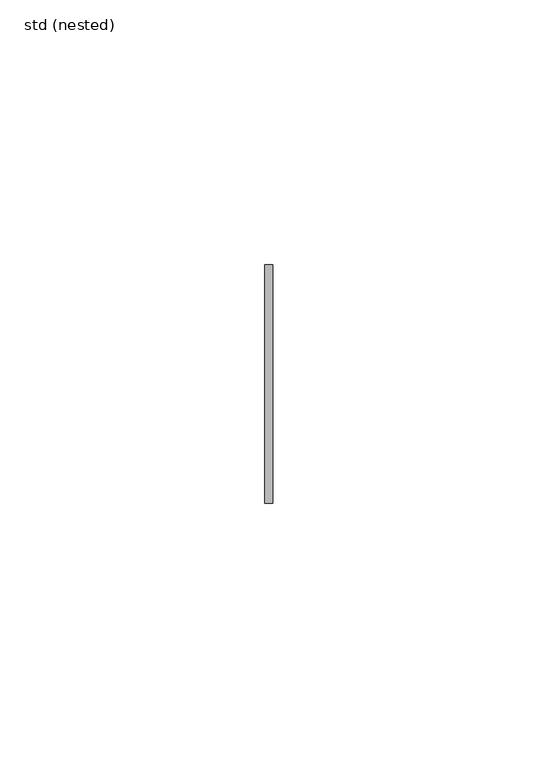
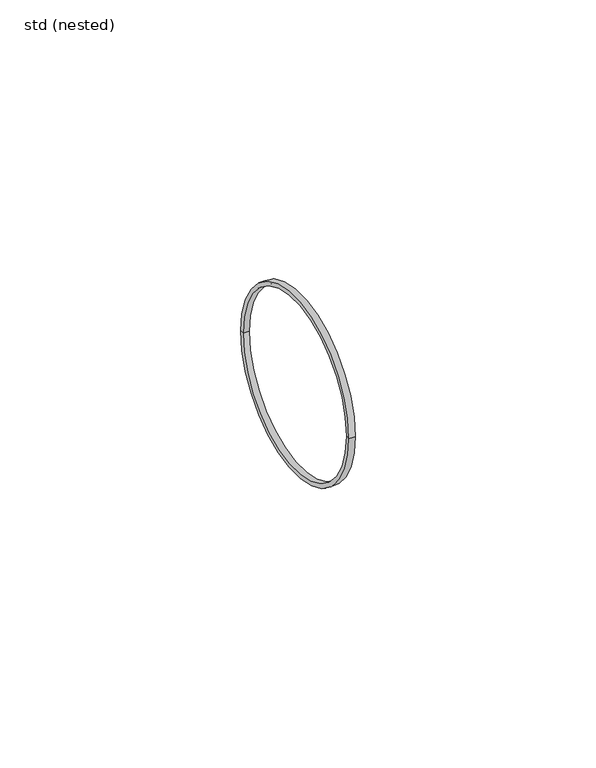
"""IFC4 building model written with IfcOpenShell, lengths in millimetres: pipe fitting geometry, ZZZ_do not use_PIF_ST_UN_GM-X seal non transitional_ACO : std (nested)."""

from ifc_helpers import new_model, si_unit, frame, origin, place, context, project, spatial, polyline, circle_curve, source, transform, mapped, element, save
from ifc_brep_helpers import plane_surface, cylinder_surface, revolved_surface, advanced_brep


def std_nested_5daa23bf(model_context):
    return source(origin(), model_context, "Body", "AdvancedBrep", [
        advanced_brep(
        [(0.0, -22.5, 0.0), (0.0, 22.5, 0.0), (1.5, 22.5, 0.0), (1.5, -22.5, 0.0), (0.0, -21.5, 0.0), (0.0, 21.5, 0.0), (1.5, -21.5, 0.0), (1.5, 21.5, 0.0)],
        [
            (0, 1, circle_curve(frame((0.0, 0.0, 0.0), z_axis=(1.0, 0.0, 0.0), x_axis=(0.0, 1.0, 0.0)), 22.5)),
            (1, 2),
            (2, 3, circle_curve(frame((1.5, 0.0, 0.0), z_axis=(-1.0, 0.0, 0.0), x_axis=(0.0, 1.0, 0.0)), 22.5)),
            (3, 0),
            (1, 0, circle_curve(frame((0.0, 0.0, 0.0), z_axis=(1.0, 0.0, 0.0), x_axis=(0.0, 1.0, 0.0)), 22.5)),
            (3, 2, circle_curve(frame((1.5, 0.0, 0.0), z_axis=(-1.0, 0.0, 0.0), x_axis=(0.0, 1.0, 0.0)), 22.5)),
            (4, 5, circle_curve(frame((0.0, 0.0, 0.0), z_axis=(1.0, 0.0, 0.0), x_axis=(0.0, 1.0, 0.0)), 21.5)),
            (5, 1),
            (0, 4),
            (5, 4, circle_curve(frame((0.0, 0.0, 0.0), z_axis=(1.0, 0.0, 0.0), x_axis=(0.0, 1.0, 0.0)), 21.5)),
            (6, 7, circle_curve(frame((1.5, 0.0, 0.0), z_axis=(1.0, 0.0, 0.0), x_axis=(0.0, 1.0, 0.0)), 21.5)),
            (7, 5),
            (4, 6),
            (7, 6, circle_curve(frame((1.5, 0.0, 0.0), z_axis=(1.0, 0.0, 0.0), x_axis=(0.0, 1.0, 0.0)), 21.5)),
            (2, 7),
            (6, 3),
        ],
        [
            cylinder_surface(frame((-0.8180655, 0.0, 0.0), z_axis=(-1.0, 0.0, 0.0), x_axis=(0.0, 1.0, 0.0)), 22.5),
            plane_surface(frame((0.0, 0.0, 0.0), z_axis=(-1.0, 0.0, 0.0), x_axis=(0.0, 1.0, 0.0))),
            revolved_surface(polyline([(0.0, 21.5, 0.0), (1.5, 21.5, 0.0)]), (-0.8180655, 0.0, 0.0), (-1.0, 0.0, 0.0)),
            plane_surface(frame((1.5, 0.0, 0.0), z_axis=(1.0, 0.0, 0.0), x_axis=(0.0, 1.0, 0.0))),
        ],
        [
            (0, [[1, 2, 3, 4]]),
            (0, [[5, -4, 6, -2]]),
            (1, [[7, 8, -1, 9]]),
            (1, [[10, -9, -5, -8]]),
            (2, [[11, 12, -7, 13]]),
            (2, [[14, -13, -10, -12]]),
            (3, [[-3, 15, -11, 16]]),
            (3, [[-6, -16, -14, -15]]),
        ],
    ),
    ])


if __name__ == "__main__":
    model = new_model("IFC4")
    model_context = context("Model", 3, world=origin())
    ifc_project = project(units=[si_unit("LENGTHUNIT", "METRE", prefix="MILLI")], contexts=[model_context])
    site = spatial("IfcSite", under=ifc_project)
    building = spatial("IfcBuilding", under=site)
    placement = place(None, origin())
    std_nested_shape = std_nested_5daa23bf(model_context)
    element("IfcPipeFitting", 1, ObjectType="ZZZ_do not use_PIF_ST_UN_GM-X seal non transitional_ACO : std (nested)", at=placement, inside=building, context=model_context, shape_type="MappedRepresentation", body=[
        mapped(std_nested_shape, transform((0.0, 0.0, 0.0), x_axis=(1.0, 0.0, 0.0), y_axis=(0.0, 1.0, 0.0), z_axis=(0.0, 0.0, 1.0))),
    ])
    save(model, "model.ifc")
